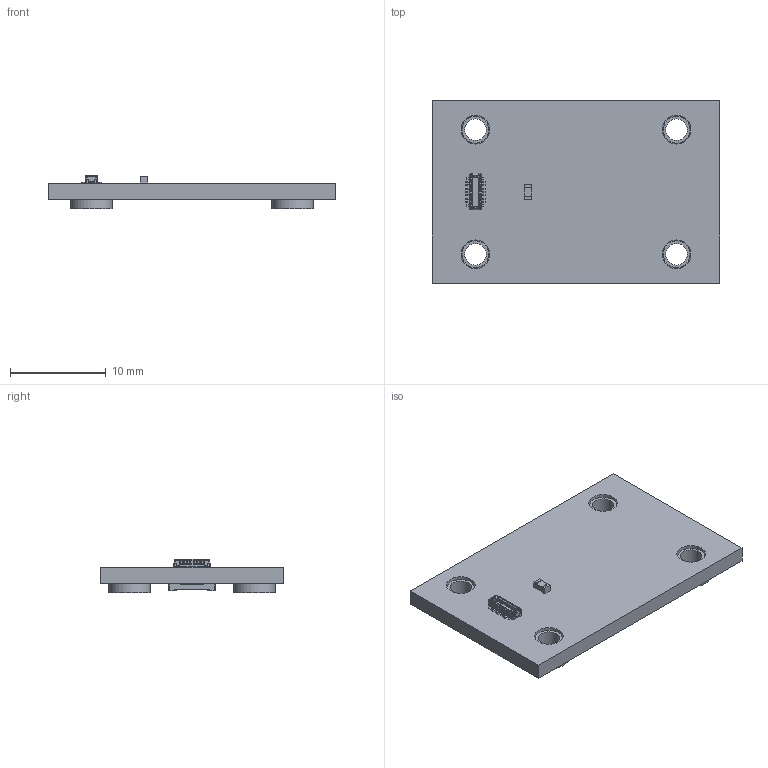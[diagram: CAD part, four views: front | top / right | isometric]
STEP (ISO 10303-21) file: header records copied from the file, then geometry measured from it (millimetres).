
FILE_DESCRIPTION(('Open CASCADE Model'),'2;1');
FILE_NAME('Open CASCADE Shape Model','2023-05-17T08:49:05',('Author'),( 'Open CASCADE'),'Open CASCADE STEP processor 6.8','Open CASCADE 6.8' ,'Unknown');
FILE_SCHEMA(('AUTOMOTIVE_DESIGN { 1 0 10303 214 1 1 1 1 }'));
Length unit declared in the file: millimetre
Products named in the file (16): PCB; Board; Open CASCADE STEP translator 6.8 1.1.1; C1; User_Library-ECHU_PPS; P2; 101P014FB110; BW93_SERIES; M4; 9774010943_(rev1); M3; M1; M2; P1; 101R014FB110; BW94_SERIES
Assembly tree (18 placements, depth 4):
  PCB
    Board
      Open CASCADE STEP translator 6.8 1.1.1
    C1
      User_Library-ECHU_PPS
    P2
      101P014FB110
        BW93_SERIES
    M4
      9774010943_(rev1)
    M3
      9774010943_(rev1)
    M1
      9774010943_(rev1)
    M2
      9774010943_(rev1)
    P1
      101R014FB110
        BW94_SERIES
Bounding box: 30 x 19 x 3.5 mm (x, y, z)
Volume: 968.2 mm3; surface area: 1654.3 mm2
Topology: 10 solids, 10 shells, 2129 faces, 5812 edges, 3696 vertices
Faces by surface type: plane 1511, cylinder 526, cone 56, torus 28, sphere 4, bspline 4
Full cylindrical faces by diameter (mm): 2.25 x4, 2.8 x4, 3 x4, 4.35 x4
Entity records: 81355 total; most frequent: CARTESIAN_POINT 12097, ORIENTED_EDGE 11550, DIRECTION 11086, EDGE_CURVE 5775, LINE 4574, VECTOR 4574, VERTEX_POINT 3678, AXIS2_PLACEMENT_3D 3256
